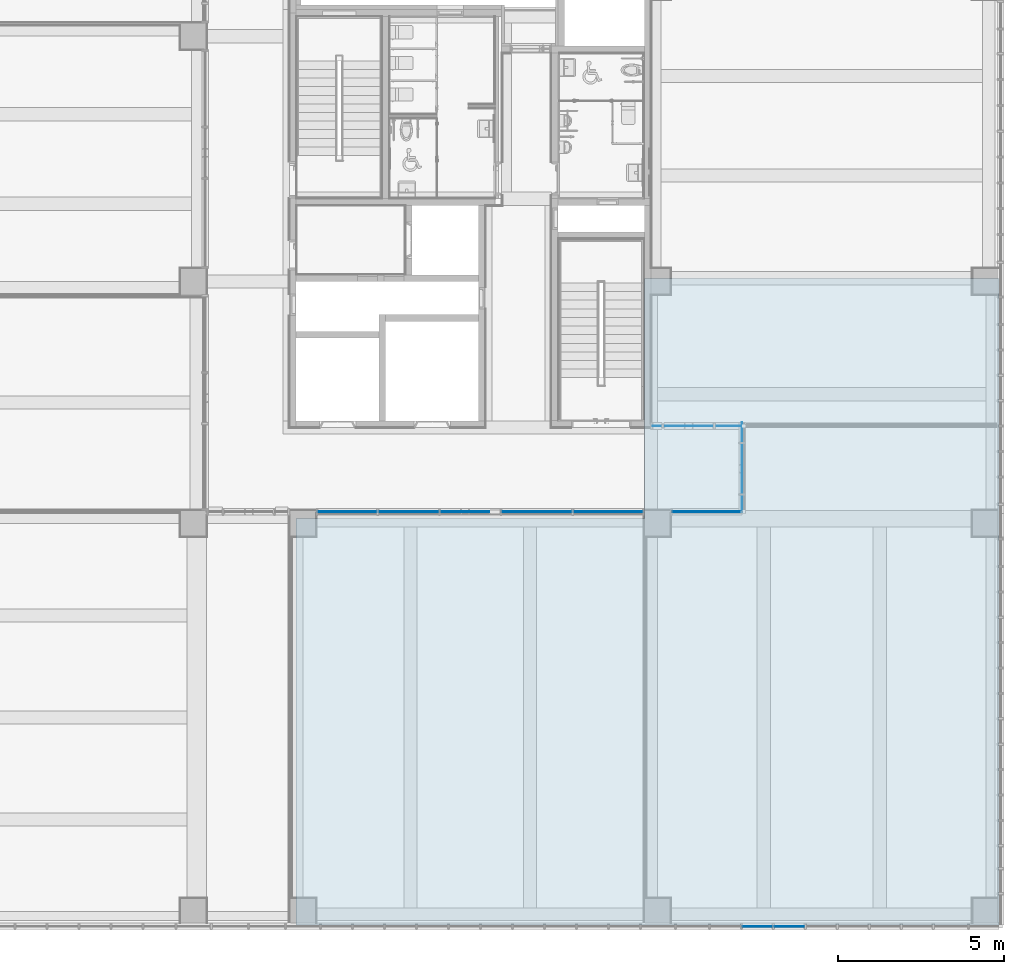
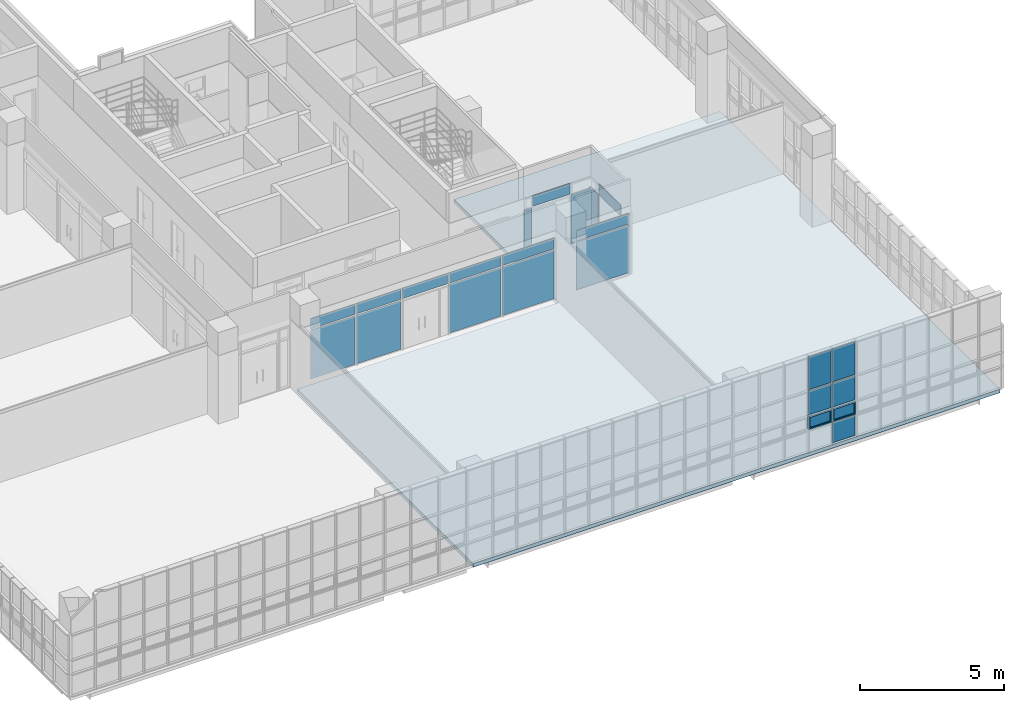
# One storey, part 32 of 76: 24 plates, 1 slab, 5 elements without a shape of their own.
"""IFC2X3 building model written with IfcOpenShell, lengths in millimetres."""

from ifc_helpers import new_model, entity, si_unit, converted_unit, derived_unit, direction, frame, origin, origin_2d_with_axis, place, context, subcontext, project, spatial, polyline, rectangle, outline, extrude, source, transform, mapped, material, material_list, layer, layer_set, layer_usage, type_object, type_shapes, element, aggregate, save


model = new_model("IFC2X3")

# Units and contexts
model_context = context("Model", 3, precision=0.01, world=origin(), true_north=direction((6.123031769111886e-17, 1.0)))
body_context = subcontext(model_context, "Body", "Model", "MODEL_VIEW")
ifc_project = project(units=[si_unit("LENGTHUNIT", "METRE", prefix="MILLI"), si_unit("AREAUNIT", "SQUARE_METRE"), si_unit("VOLUMEUNIT", "CUBIC_METRE"), converted_unit("PLANEANGLEUNIT", "DEGREE", entity("IfcRatioMeasure", 0.017453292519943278), si_unit("PLANEANGLEUNIT", "RADIAN"), dimensions=[0, 0, 0, 0, 0, 0, 0]), si_unit("MASSUNIT", "GRAM", prefix="KILO"), derived_unit("MASSDENSITYUNIT", [(si_unit("MASSUNIT", "GRAM", prefix="KILO"), 1), (si_unit("LENGTHUNIT", "METRE"), -3)]), derived_unit("MOMENTOFINERTIAUNIT", [(si_unit("LENGTHUNIT", "METRE"), 4)]), si_unit("TIMEUNIT", "SECOND"), si_unit("FREQUENCYUNIT", "HERTZ"), si_unit("THERMODYNAMICTEMPERATUREUNIT", "DEGREE_CELSIUS"), derived_unit("THERMALTRANSMITTANCEUNIT", [(si_unit("MASSUNIT", "GRAM", prefix="KILO"), 1), (si_unit("THERMODYNAMICTEMPERATUREUNIT", "KELVIN"), -1), (si_unit("TIMEUNIT", "SECOND"), -3)]), derived_unit("VOLUMETRICFLOWRATEUNIT", [(si_unit("LENGTHUNIT", "METRE"), 3), (si_unit("TIMEUNIT", "SECOND"), -1)]), derived_unit("MASSFLOWRATEUNIT", [(si_unit("MASSUNIT", "GRAM", prefix="KILO"), 1), (si_unit("TIMEUNIT", "SECOND"), -1)]), derived_unit("ROTATIONALFREQUENCYUNIT", [(si_unit("TIMEUNIT", "SECOND"), -1)]), si_unit("ELECTRICCURRENTUNIT", "AMPERE"), si_unit("ELECTRICVOLTAGEUNIT", "VOLT"), si_unit("POWERUNIT", "WATT"), si_unit("FORCEUNIT", "NEWTON", prefix="KILO"), si_unit("ILLUMINANCEUNIT", "LUX"), si_unit("LUMINOUSFLUXUNIT", "LUMEN"), si_unit("LUMINOUSINTENSITYUNIT", "CANDELA"), derived_unit("USERDEFINED", [(si_unit("MASSUNIT", "GRAM", prefix="KILO"), -1), (si_unit("LENGTHUNIT", "METRE"), -2), (si_unit("TIMEUNIT", "SECOND"), 3), (si_unit("LUMINOUSFLUXUNIT", "LUMEN"), 1)]), derived_unit("SOUNDPOWERUNIT", [(si_unit("MASSUNIT", "GRAM", prefix="KILO"), 1), (si_unit("LENGTHUNIT", "METRE"), 2), (si_unit("TIMEUNIT", "SECOND"), -3)]), derived_unit("SOUNDPRESSUREUNIT", [(si_unit("MASSUNIT", "GRAM", prefix="KILO"), 1), (si_unit("LENGTHUNIT", "METRE"), -1), (si_unit("TIMEUNIT", "SECOND"), -2)]), derived_unit("LINEARVELOCITYUNIT", [(si_unit("LENGTHUNIT", "METRE"), 1), (si_unit("TIMEUNIT", "SECOND"), -1)]), si_unit("PRESSUREUNIT", "PASCAL"), derived_unit("USERDEFINED", [(si_unit("LENGTHUNIT", "METRE"), -2), (si_unit("MASSUNIT", "GRAM", prefix="KILO"), 1), (si_unit("TIMEUNIT", "SECOND"), -2)]), derived_unit("LINEARFORCEUNIT", [(si_unit("MASSUNIT", "GRAM", prefix="KILO"), 1), (si_unit("LENGTHUNIT", "METRE"), 1), (si_unit("TIMEUNIT", "SECOND"), -2), (si_unit("LENGTHUNIT", "METRE"), -1)]), derived_unit("PLANARFORCEUNIT", [(si_unit("MASSUNIT", "GRAM", prefix="KILO"), 1), (si_unit("LENGTHUNIT", "METRE"), 1), (si_unit("TIMEUNIT", "SECOND"), -2), (si_unit("LENGTHUNIT", "METRE"), -2)])], contexts=[model_context])

# Site, building, storey
site_placement = place(None, frame((-14167.972527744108, -657.2125860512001, 0.0)))
site = spatial("IfcSite", under=ifc_project, at=site_placement, Name="Default", CompositionType="ELEMENT")
building_placement = place(site_placement, origin())
building = spatial("IfcBuilding", under=site, at=building_placement, Name="Sample Building", CompositionType="ELEMENT")
storey_placement = place(building_placement, frame((0.0, 0.0, 9300.0)))
storey = spatial("IfcBuildingStorey", under=building, at=storey_placement, Name="지상 3층", CompositionType="ELEMENT", Elevation=9300.000000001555)

# Slab
ifc_material_1 = material(Name="KBIMS-콘크리트")
ifc_layer = layer(ifc_material_1, 150.0)
ifc_layer_set = layer_set([ifc_layer], Name="바닥:SL111-철근콘크리트구조 바닥 150mm_S2")
ifc_layer_usage = layer_usage(ifc_layer_set, "AXIS3", "POSITIVE", 0.0)
slab_type = type_object("IfcSlabType", Name="바닥:SL111-철근콘크리트구조 바닥 150mm_S2", PredefinedType="FLOOR", material=ifc_layer_set)
slab_placement = place(storey_placement, origin())
element("IfcSlab", 1, at=slab_placement, inside=storey, type_object=slab_type, material=ifc_layer_usage, Name="바닥:SL111-철근콘크리트구조 바닥 150mm_S2", ObjectType="바닥:SL111-철근콘크리트구조 바닥 150mm_S2", PredefinedType="FLOOR", context=body_context, shape_type="SweptSolid", body=[
    extrude(outline(polyline([(-10583.333387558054, -10566.663779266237), (1666.666712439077, -10566.663779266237), (1666.666712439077, -66.6550862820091), (8916.666675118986, -66.67247224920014), (8916.666675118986, 10633.336251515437), (-10583.333387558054, 10633.33625151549), (-10583.333387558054, -10566.663779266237)])), frame((40834.627577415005, 11140.545582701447, 0.0), z_axis=(0.0, 0.0, -1.0), x_axis=(0.0, 1.0, 0.0)), (0.0, 0.0, 1.0), 150.00000000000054),
])

# Curtain wall, plate
curtain_wall_type = type_object("IfcCurtainWallType", Name="커튼월:CW112-스테인리스 스틸 커튼월", PredefinedType="NOTDEFINED")
curtain_wall_1_placement = place(storey_placement, frame((0.0, 0.0, -9300.0)))
curtain_wall_1 = element("IfcCurtainWall", 2, at=curtain_wall_1_placement, inside=storey, type_object=curtain_wall_type, Name="커튼월:CW112-스테인리스 스틸 커튼월", ObjectType="커튼월:CW112-스테인리스 스틸 커튼월")
ifc_material_2 = material(Name="KBIMS-로이유리(코팅)")
plate_type_1 = type_object("IfcPlateType", Name="CW300-THK24.Low-e coating glass:CW300-THK24.Low-e coating glass", PredefinedType="CURTAIN_PANEL", material=ifc_material_2)
shared_shape_1 = source(origin(), body_context, "Body", "SweptSolid", [
    extrude(rectangle(XDim=1500.0000000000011, YDim=24.000000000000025, at=origin_2d_with_axis()), frame((0.0, 0.0, 0.0), z_axis=(0.0, 0.0, 1.0), x_axis=(-1.0, 0.0, 0.0)), (0.0, 0.0, 1.0), 445.00000000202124),
])
type_shapes(plate_type_1, [shared_shape_1])
plate_1_placement = place(curtain_wall_1_placement, frame((43717.972491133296, 14312.177678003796, 11505.0), z_axis=(0.0, 0.0, 1.0), x_axis=(0.0, 1.0, 0.0)))
plate_1 = element("IfcPlate", 3, at=plate_1_placement, type_object=plate_type_1, material=ifc_material_2, Name="CW300-THK24.Low-e coating glass:CW300-THK24.Low-e coating glass", ObjectType="CW300-THK24.Low-e coating glass:CW300-THK24.Low-e coating glass", context=body_context, shape_type="MappedRepresentation", body=[
    mapped(shared_shape_1, transform((0.0, 0.0, 0.0), scale=1.0)),
])

# Curtain wall, plates
curtain_wall_2_placement = place(storey_placement, frame((0.0, 0.0, -9300.0)))
curtain_wall_2 = element("IfcCurtainWall", 4, at=curtain_wall_2_placement, inside=storey, type_object=curtain_wall_type, Name="커튼월:CW112-스테인리스 스틸 커튼월", ObjectType="커튼월:CW112-스테인리스 스틸 커튼월")
plate_type_2 = type_object("IfcPlateType", Name="CW300-THK24.Low-e coating glass:CW300-THK24.Low-e coating glass", PredefinedType="CURTAIN_PANEL", material=ifc_material_2)
shared_shape_2 = source(origin(), body_context, "Body", "SweptSolid", [
    extrude(rectangle(XDim=1785.0173767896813, YDim=24.000000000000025, at=origin_2d_with_axis()), frame((0.0, 0.0, 0.0), z_axis=(0.0, 0.0, 1.0), x_axis=(-1.0, 0.0, 0.0)), (0.0, 0.0, 1.0), 2074.9999999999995),
])
type_shapes(plate_type_2, [shared_shape_2])
plate_2_placement = place(curtain_wall_2_placement, frame((31810.463802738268, 13012.194878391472, 9380.0)))
plate_2 = element("IfcPlate", 5, at=plate_2_placement, type_object=plate_type_2, material=ifc_material_2, Name="CW300-THK24.Low-e coating glass:CW300-THK24.Low-e coating glass", ObjectType="CW300-THK24.Low-e coating glass:CW300-THK24.Low-e coating glass", context=body_context, shape_type="MappedRepresentation", body=[
    mapped(shared_shape_2, transform((0.0, 0.0, 0.0), scale=1.0)),
])
plate_type_3 = type_object("IfcPlateType", Name="CW300-THK24.Low-e coating glass:CW300-THK24.Low-e coating glass", PredefinedType="CURTAIN_PANEL", material=ifc_material_2)
shared_shape_3 = source(origin(), body_context, "Body", "SweptSolid", [
    extrude(rectangle(XDim=1810.0000000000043, YDim=24.000000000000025, at=origin_2d_with_axis()), frame((0.0, 0.0, 0.0), z_axis=(0.0, 0.0, 1.0), x_axis=(-1.0, 0.0, 0.0)), (0.0, 0.0, 1.0), 2074.9999999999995),
])
type_shapes(plate_type_3, [shared_shape_3])
plate_3_placement = place(curtain_wall_2_placement, frame((33657.972491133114, 13012.194878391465, 9380.0)))
plate_3 = element("IfcPlate", 6, at=plate_3_placement, type_object=plate_type_3, material=ifc_material_2, Name="CW300-THK24.Low-e coating glass:CW300-THK24.Low-e coating glass", ObjectType="CW300-THK24.Low-e coating glass:CW300-THK24.Low-e coating glass", context=body_context, shape_type="MappedRepresentation", body=[
    mapped(shared_shape_3, transform((0.0, 0.0, 0.0), scale=1.0)),
])
plate_type_4 = type_object("IfcPlateType", Name="CW300-THK24.Low-e coating glass:CW300-THK24.Low-e coating glass", PredefinedType="CURTAIN_PANEL", material=ifc_material_2)
shared_shape_4 = source(origin(), body_context, "Body", "SweptSolid", [
    extrude(rectangle(XDim=2110.0000000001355, YDim=24.000000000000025, at=origin_2d_with_axis()), frame((0.0, 0.0, 0.0), z_axis=(0.0, 0.0, 1.0), x_axis=(-1.0, 0.0, 0.0)), (0.0, 0.0, 1.0), 2074.9999999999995),
])
type_shapes(plate_type_4, [shared_shape_4])
plate_4_placement = place(curtain_wall_2_placement, frame((37527.97249113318, 13012.194878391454, 9380.0)))
plate_4 = element("IfcPlate", 7, at=plate_4_placement, type_object=plate_type_4, material=ifc_material_2, Name="CW300-THK24.Low-e coating glass:CW300-THK24.Low-e coating glass", ObjectType="CW300-THK24.Low-e coating glass:CW300-THK24.Low-e coating glass", context=body_context, shape_type="MappedRepresentation", body=[
    mapped(shared_shape_4, transform((0.0, 0.0, 0.0), scale=1.0)),
])
plate_type_5 = type_object("IfcPlateType", Name="CW300-THK24.Low-e coating glass:CW300-THK24.Low-e coating glass", PredefinedType="CURTAIN_PANEL", material=ifc_material_2)
shared_shape_5 = source(origin(), body_context, "Body", "SweptSolid", [
    extrude(rectangle(XDim=2084.9999999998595, YDim=24.000000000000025, at=origin_2d_with_axis()), frame((0.0, 0.0, 0.0), z_axis=(0.0, 0.0, 1.0), x_axis=(-1.0, 0.0, 0.0)), (0.0, 0.0, 1.0), 2074.9999999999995),
])
type_shapes(plate_type_5, [shared_shape_5])
plate_5_placement = place(curtain_wall_2_placement, frame((39675.47249113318, 13012.194878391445, 9380.0)))
plate_5 = element("IfcPlate", 8, at=plate_5_placement, type_object=plate_type_5, material=ifc_material_2, Name="CW300-THK24.Low-e coating glass:CW300-THK24.Low-e coating glass", ObjectType="CW300-THK24.Low-e coating glass:CW300-THK24.Low-e coating glass", context=body_context, shape_type="MappedRepresentation", body=[
    mapped(shared_shape_5, transform((0.0, 0.0, 0.0), scale=1.0)),
])
plate_type_6 = type_object("IfcPlateType", Name="CW300-THK24.Low-e coating glass:CW300-THK24.Low-e coating glass", PredefinedType="CURTAIN_PANEL", material=ifc_material_2)
shared_shape_6 = source(origin(), body_context, "Body", "SweptSolid", [
    extrude(rectangle(XDim=1785.0173767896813, YDim=24.000000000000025, at=origin_2d_with_axis()), frame((0.0, 0.0, 0.0), z_axis=(0.0, 0.0, 1.0), x_axis=(-1.0, 0.0, 0.0)), (0.0, 0.0, 1.0), 445.00000000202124),
])
type_shapes(plate_type_6, [shared_shape_6])
plate_6_placement = place(curtain_wall_2_placement, frame((31810.463802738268, 13012.194878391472, 11505.0)))
plate_6 = element("IfcPlate", 9, at=plate_6_placement, type_object=plate_type_6, material=ifc_material_2, Name="CW300-THK24.Low-e coating glass:CW300-THK24.Low-e coating glass", ObjectType="CW300-THK24.Low-e coating glass:CW300-THK24.Low-e coating glass", context=body_context, shape_type="MappedRepresentation", body=[
    mapped(shared_shape_6, transform((0.0, 0.0, 0.0), scale=1.0)),
])
plate_type_7 = type_object("IfcPlateType", Name="CW300-THK24.Low-e coating glass:CW300-THK24.Low-e coating glass", PredefinedType="CURTAIN_PANEL", material=ifc_material_2)
shared_shape_7 = source(origin(), body_context, "Body", "SweptSolid", [
    extrude(rectangle(XDim=1810.0, YDim=24.000000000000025, at=origin_2d_with_axis()), frame((0.0, 0.0, 0.0), z_axis=(0.0, 0.0, 1.0), x_axis=(-1.0, 0.0, 0.0)), (0.0, 0.0, 1.0), 445.00000000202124),
])
type_shapes(plate_type_7, [shared_shape_7])
plate_7_placement = place(curtain_wall_2_placement, frame((33657.972491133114, 13012.194878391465, 11505.0)))
plate_7 = element("IfcPlate", 10, at=plate_7_placement, type_object=plate_type_7, material=ifc_material_2, Name="CW300-THK24.Low-e coating glass:CW300-THK24.Low-e coating glass", ObjectType="CW300-THK24.Low-e coating glass:CW300-THK24.Low-e coating glass", context=body_context, shape_type="MappedRepresentation", body=[
    mapped(shared_shape_7, transform((0.0, 0.0, 0.0), scale=1.0)),
])
plate_8_placement = place(curtain_wall_2_placement, frame((35517.972491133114, 13012.19487839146, 11505.0)))
plate_8 = element("IfcPlate", 11, at=plate_8_placement, type_object=plate_type_7, material=ifc_material_2, Name="CW300-THK24.Low-e coating glass:CW300-THK24.Low-e coating glass", ObjectType="CW300-THK24.Low-e coating glass:CW300-THK24.Low-e coating glass", context=body_context, shape_type="MappedRepresentation", body=[
    mapped(shared_shape_7, transform((0.0, 0.0, 0.0), scale=1.0)),
])
plate_type_8 = type_object("IfcPlateType", Name="CW300-THK24.Low-e coating glass:CW300-THK24.Low-e coating glass", PredefinedType="CURTAIN_PANEL", material=ifc_material_2)
shared_shape_8 = source(origin(), body_context, "Body", "SweptSolid", [
    extrude(rectangle(XDim=2110.0000000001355, YDim=24.000000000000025, at=origin_2d_with_axis()), frame((0.0, 0.0, 0.0), z_axis=(0.0, 0.0, 1.0), x_axis=(-1.0, 0.0, 0.0)), (0.0, 0.0, 1.0), 445.00000000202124),
])
type_shapes(plate_type_8, [shared_shape_8])
plate_9_placement = place(curtain_wall_2_placement, frame((37527.97249113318, 13012.194878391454, 11505.0)))
plate_9 = element("IfcPlate", 12, at=plate_9_placement, type_object=plate_type_8, material=ifc_material_2, Name="CW300-THK24.Low-e coating glass:CW300-THK24.Low-e coating glass", ObjectType="CW300-THK24.Low-e coating glass:CW300-THK24.Low-e coating glass", context=body_context, shape_type="MappedRepresentation", body=[
    mapped(shared_shape_8, transform((0.0, 0.0, 0.0), scale=1.0)),
])
plate_type_9 = type_object("IfcPlateType", Name="CW300-THK24.Low-e coating glass:CW300-THK24.Low-e coating glass", PredefinedType="CURTAIN_PANEL", material=ifc_material_2)
shared_shape_9 = source(origin(), body_context, "Body", "SweptSolid", [
    extrude(rectangle(XDim=2084.9999999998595, YDim=24.000000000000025, at=origin_2d_with_axis()), frame((0.0, 0.0, 0.0), z_axis=(0.0, 0.0, 1.0), x_axis=(-1.0, 0.0, 0.0)), (0.0, 0.0, 1.0), 445.00000000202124),
])
type_shapes(plate_type_9, [shared_shape_9])
plate_10_placement = place(curtain_wall_2_placement, frame((39675.47249113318, 13012.194878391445, 11505.0)))
plate_10 = element("IfcPlate", 13, at=plate_10_placement, type_object=plate_type_9, material=ifc_material_2, Name="CW300-THK24.Low-e coating glass:CW300-THK24.Low-e coating glass", ObjectType="CW300-THK24.Low-e coating glass:CW300-THK24.Low-e coating glass", context=body_context, shape_type="MappedRepresentation", body=[
    mapped(shared_shape_9, transform((0.0, 0.0, 0.0), scale=1.0)),
])
aggregate(curtain_wall_2, [plate_2, plate_3, plate_4, plate_5, plate_6, plate_7, plate_8, plate_9, plate_10])

# Curtain wall, plate
curtain_wall_3_placement = place(storey_placement, frame((0.0, 0.0, -9300.0)))
curtain_wall_3 = element("IfcCurtainWall", 14, at=curtain_wall_3_placement, inside=storey, type_object=curtain_wall_type, Name="커튼월:CW112-스테인리스 스틸 커튼월", ObjectType="커튼월:CW112-스테인리스 스틸 커튼월")
plate_type_10 = type_object("IfcPlateType", Name="CW300-THK24.Low-e coating glass:CW300-THK24.Low-e coating glass", PredefinedType="CURTAIN_PANEL", material=ifc_material_2)
shared_shape_10 = source(origin(), body_context, "Body", "SweptSolid", [
    extrude(rectangle(XDim=24.000000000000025, YDim=280.0086929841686, at=origin_2d_with_axis()), frame((0.0, 0.0, 0.0), z_axis=(0.0, 0.0, 1.0), x_axis=(0.0, 1.0, 0.0)), (0.0, 0.0, 1.0), 2075.0000000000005),
])
type_shapes(plate_type_10, [shared_shape_10])
plate_11_placement = place(curtain_wall_3_placement, frame((41157.968144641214, 15602.177678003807, 9380.0), z_axis=(0.0, 0.0, 1.0), x_axis=(-1.0, 0.0, 0.0)))
plate_11 = element("IfcPlate", 15, at=plate_11_placement, type_object=plate_type_10, material=ifc_material_2, Name="CW300-THK24.Low-e coating glass:CW300-THK24.Low-e coating glass", ObjectType="CW300-THK24.Low-e coating glass:CW300-THK24.Low-e coating glass", context=body_context, shape_type="MappedRepresentation", body=[
    mapped(shared_shape_10, transform((0.0, 0.0, 0.0), scale=1.0)),
])

# Curtain wall, plates
curtain_wall_4_placement = place(storey_placement, frame((0.0, 0.0, -9300.0)))
curtain_wall_4 = element("IfcCurtainWall", 16, at=curtain_wall_4_placement, inside=storey, type_object=curtain_wall_type, Name="커튼월:CW112-스테인리스 스틸 커튼월", ObjectType="커튼월:CW112-스테인리스 스틸 커튼월")
plate_type_11 = type_object("IfcPlateType", Name="CW300-THK24.Low-e coating glass:CW300-THK24.Low-e coating glass", PredefinedType="CURTAIN_PANEL", material=ifc_material_2)
shared_shape_11 = source(origin(), body_context, "Body", "SweptSolid", [
    extrude(rectangle(XDim=914.9999999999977, YDim=24.000000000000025, at=origin_2d_with_axis()), frame((0.0, 0.0, 0.0), z_axis=(0.0, 0.0, 1.0), x_axis=(-1.0, 0.0, 0.0)), (0.0, 0.0, 1.0), 875.0000000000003),
])
type_shapes(plate_type_11, [shared_shape_11])
plate_12_placement = place(curtain_wall_4_placement, frame((45142.65607007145, 507.21229514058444, 9430.0)))
plate_12 = element("IfcPlate", 17, at=plate_12_placement, type_object=plate_type_11, material=ifc_material_2, Name="CW300-THK24.Low-e coating glass:CW300-THK24.Low-e coating glass", ObjectType="CW300-THK24.Low-e coating glass:CW300-THK24.Low-e coating glass", context=body_context, shape_type="MappedRepresentation", body=[
    mapped(shared_shape_11, transform((0.0, 0.0, 0.0), scale=1.0)),
])
ifc_material_3 = material(Name="KBIMS-유리")
ifc_material_4 = material(Name="KBIMS-알루미늄")
ifc_material_list_1 = material_list([ifc_material_3, ifc_material_4])
ifc_material_list_2 = material_list([ifc_material_3, ifc_material_4])
plate_type_12 = type_object("IfcPlateType", Name="CW410-프로젝트 창:CW410-프로젝트 창 (하부개폐)", PredefinedType="CURTAIN_PANEL", material=ifc_material_list_2)
shared_shape_12 = source(origin(), body_context, "Body", "SweptSolid", [
    extrude(rectangle(XDim=815.0000000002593, YDim=23.999999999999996, at=origin_2d_with_axis()), frame((0.0, -0.04999999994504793, 50.0), z_axis=(0.0, 0.0, 1.0), x_axis=(-1.0, 0.0, 0.0)), (0.0, 0.0, 1.0), 450.0000000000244),
    extrude(outline(polyline([(-457.4999999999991, -275.0), (457.4999999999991, -275.0), (457.4999999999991, 275.0), (-457.4999999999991, 275.0), (-457.4999999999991, -275.0)]), holes=[polyline([(-407.50000000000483, -225.0), (-407.5000000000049, 225.0), (407.50000000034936, 225.0), (407.50000000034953, -225.0), (-407.50000000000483, -225.0)])]), frame((0.0, -50.04999999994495, 275.0), z_axis=(0.0, 1.0, 0.0), x_axis=(1.0, 0.0, 0.0)), (0.0, 0.0, 1.0), 99.99999999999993),
])
type_shapes(plate_type_12, [shared_shape_12])
plate_13_placement = place(curtain_wall_4_placement, frame((44177.656070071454, 507.2122951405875, 10355.0)))
plate_13 = element("IfcPlate", 18, at=plate_13_placement, type_object=plate_type_12, material=ifc_material_list_1, Name="CW410-프로젝트 창:CW410-프로젝트 창 (하부개폐)", ObjectType="CW410-프로젝트 창:CW410-프로젝트 창 (하부개폐)", context=body_context, shape_type="MappedRepresentation", body=[
    mapped(shared_shape_12, transform((0.0, 0.0, 0.0), scale=1.0)),
])
ifc_material_list_3 = material_list([ifc_material_3, ifc_material_4])
plate_14_placement = place(curtain_wall_4_placement, frame((45142.65607007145, 507.21229514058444, 10355.0)))
plate_14 = element("IfcPlate", 19, at=plate_14_placement, type_object=plate_type_12, material=ifc_material_list_3, Name="CW410-프로젝트 창:CW410-프로젝트 창 (하부개폐)", ObjectType="CW410-프로젝트 창:CW410-프로젝트 창 (하부개폐)", context=body_context, shape_type="MappedRepresentation", body=[
    mapped(shared_shape_12, transform((0.0, 0.0, 0.0), scale=1.0)),
])
plate_type_13 = type_object("IfcPlateType", Name="CW300-THK24.Low-e coating glass:CW300-THK24.Low-e coating glass", PredefinedType="CURTAIN_PANEL", material=ifc_material_2)
shared_shape_13 = source(origin(), body_context, "Body", "SweptSolid", [
    extrude(rectangle(XDim=914.9999999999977, YDim=24.000000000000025, at=origin_2d_with_axis()), frame((0.0, 0.0, 0.0), z_axis=(0.0, 0.0, 1.0), x_axis=(-1.0, 0.0, 0.0)), (0.0, 0.0, 1.0), 1020.0000000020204),
])
type_shapes(plate_type_13, [shared_shape_13])
plate_15_placement = place(curtain_wall_4_placement, frame((44177.656070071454, 507.2122951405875, 10955.0)))
plate_15 = element("IfcPlate", 20, at=plate_15_placement, type_object=plate_type_13, material=ifc_material_2, Name="CW300-THK24.Low-e coating glass:CW300-THK24.Low-e coating glass", ObjectType="CW300-THK24.Low-e coating glass:CW300-THK24.Low-e coating glass", context=body_context, shape_type="MappedRepresentation", body=[
    mapped(shared_shape_13, transform((0.0, 0.0, 0.0), scale=1.0)),
])
plate_16_placement = place(curtain_wall_4_placement, frame((45142.65607007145, 507.21229514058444, 10955.0)))
plate_16 = element("IfcPlate", 21, at=plate_16_placement, type_object=plate_type_13, material=ifc_material_2, Name="CW300-THK24.Low-e coating glass:CW300-THK24.Low-e coating glass", ObjectType="CW300-THK24.Low-e coating glass:CW300-THK24.Low-e coating glass", context=body_context, shape_type="MappedRepresentation", body=[
    mapped(shared_shape_13, transform((0.0, 0.0, 0.0), scale=1.0)),
])
plate_type_14 = type_object("IfcPlateType", Name="CW300-THK24.Low-e coating glass:CW300-THK24.Low-e coating glass", PredefinedType="CURTAIN_PANEL", material=ifc_material_2)
shared_shape_14 = source(origin(), body_context, "Body", "SweptSolid", [
    extrude(rectangle(XDim=914.9999999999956, YDim=24.000000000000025, at=origin_2d_with_axis()), frame((0.0, 0.0, 0.0), z_axis=(0.0, 0.0, 1.0), x_axis=(-1.0, 0.0, 0.0)), (0.0, 0.0, 1.0), 1404.9999999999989),
])
type_shapes(plate_type_14, [shared_shape_14])
plate_17_placement = place(curtain_wall_4_placement, frame((44177.65607007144, 507.2122951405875, 12025.0)))
plate_17 = element("IfcPlate", 22, at=plate_17_placement, type_object=plate_type_14, material=ifc_material_2, Name="CW300-THK24.Low-e coating glass:CW300-THK24.Low-e coating glass", ObjectType="CW300-THK24.Low-e coating glass:CW300-THK24.Low-e coating glass", context=body_context, shape_type="MappedRepresentation", body=[
    mapped(shared_shape_14, transform((0.0, 0.0, 0.0), scale=1.0)),
])
plate_18_placement = place(curtain_wall_4_placement, frame((45142.65607007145, 507.21229514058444, 12025.0)))
plate_18 = element("IfcPlate", 23, at=plate_18_placement, type_object=plate_type_14, material=ifc_material_2, Name="CW300-THK24.Low-e coating glass:CW300-THK24.Low-e coating glass", ObjectType="CW300-THK24.Low-e coating glass:CW300-THK24.Low-e coating glass", context=body_context, shape_type="MappedRepresentation", body=[
    mapped(shared_shape_14, transform((0.0, 0.0, 0.0), scale=1.0)),
])
aggregate(curtain_wall_4, [plate_12, plate_13, plate_14, plate_15, plate_16, plate_17, plate_18])

# Plate
plate_type_15 = type_object("IfcPlateType", Name="CW300-THK24.Low-e coating glass:CW300-THK24.Low-e coating glass", PredefinedType="CURTAIN_PANEL", material=ifc_material_2)
shared_shape_15 = source(origin(), body_context, "Body", "SweptSolid", [
    extrude(rectangle(XDim=24.000000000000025, YDim=1494.999999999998, at=origin_2d_with_axis()), frame((0.0, 0.0, 0.0), z_axis=(0.0, 0.0, 1.0), x_axis=(0.0, 1.0, 0.0)), (0.0, 0.0, 1.0), 444.9999999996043),
])
type_shapes(plate_type_15, [shared_shape_15])
plate_19_placement = place(curtain_wall_3_placement, frame((42105.47249113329, 15602.177678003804, 11505.0), z_axis=(0.0, 0.0, 1.0), x_axis=(-1.0, 0.0, 0.0)))
plate_19 = element("IfcPlate", 24, at=plate_19_placement, type_object=plate_type_15, material=ifc_material_2, Name="CW300-THK24.Low-e coating glass:CW300-THK24.Low-e coating glass", ObjectType="CW300-THK24.Low-e coating glass:CW300-THK24.Low-e coating glass", context=body_context, shape_type="MappedRepresentation", body=[
    mapped(shared_shape_15, transform((0.0, 0.0, 0.0), scale=1.0)),
])

# Curtain wall, plates
curtain_wall_5_placement = place(storey_placement, frame((0.0, 0.0, -9300.0)))
curtain_wall_5 = element("IfcCurtainWall", 25, at=curtain_wall_5_placement, inside=storey, type_object=curtain_wall_type, Name="커튼월:CW112-스테인리스 스틸 커튼월", ObjectType="커튼월:CW112-스테인리스 스틸 커튼월")
plate_type_16 = type_object("IfcPlateType", Name="CW300-THK24.Low-e coating glass:CW300-THK24.Low-e coating glass", PredefinedType="CURTAIN_PANEL", material=ifc_material_2)
shared_shape_16 = source(origin(), body_context, "Body", "SweptSolid", [
    extrude(rectangle(XDim=2099.999999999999, YDim=24.000000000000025, at=origin_2d_with_axis()), frame((0.0, 0.0, 0.0), z_axis=(0.0, 0.0, 1.0), x_axis=(-1.0, 0.0, 0.0)), (0.0, 0.0, 1.0), 2025.000000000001),
])
type_shapes(plate_type_16, [shared_shape_16])
plate_20_placement = place(curtain_wall_5_placement, frame((42667.957735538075, 13012.212383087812, 9430.0)))
plate_20 = element("IfcPlate", 26, at=plate_20_placement, type_object=plate_type_16, material=ifc_material_2, Name="CW300-THK24.Low-e coating glass:CW300-THK24.Low-e coating glass", ObjectType="CW300-THK24.Low-e coating glass:CW300-THK24.Low-e coating glass", context=body_context, shape_type="MappedRepresentation", body=[
    mapped(shared_shape_16, transform((0.0, 0.0, 0.0), scale=1.0)),
])
plate_type_17 = type_object("IfcPlateType", Name="CW300-THK24.Low-e coating glass:CW300-THK24.Low-e coating glass", PredefinedType="CURTAIN_PANEL", material=ifc_material_2)
shared_shape_17 = source(origin(), body_context, "Body", "SweptSolid", [
    extrude(rectangle(XDim=2099.999999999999, YDim=24.000000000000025, at=origin_2d_with_axis()), frame((0.0, 0.0, 0.0), z_axis=(0.0, 0.0, 1.0), x_axis=(-1.0, 0.0, 0.0)), (0.0, 0.0, 1.0), 445.0000000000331),
])
type_shapes(plate_type_17, [shared_shape_17])
plate_21_placement = place(curtain_wall_5_placement, frame((42667.957735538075, 13012.212383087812, 11505.0)))
plate_21 = element("IfcPlate", 27, at=plate_21_placement, type_object=plate_type_17, material=ifc_material_2, Name="CW300-THK24.Low-e coating glass:CW300-THK24.Low-e coating glass", ObjectType="CW300-THK24.Low-e coating glass:CW300-THK24.Low-e coating glass", context=body_context, shape_type="MappedRepresentation", body=[
    mapped(shared_shape_17, transform((0.0, 0.0, 0.0), scale=1.0)),
])
aggregate(curtain_wall_5, [plate_20, plate_21])

# Plate
plate_type_18 = type_object("IfcPlateType", Name="CW300-THK24.Low-e coating glass:CW300-THK24.Low-e coating glass", PredefinedType="CURTAIN_PANEL", material=ifc_material_2)
shared_shape_18 = source(origin(), body_context, "Body", "SweptSolid", [
    extrude(rectangle(XDim=454.96509195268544, YDim=24.000000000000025, at=origin_2d_with_axis()), frame((0.0, 0.0, 0.0), z_axis=(0.0, 0.0, 1.0), x_axis=(-1.0, 0.0, 0.0)), (0.0, 0.0, 1.0), 2024.9999999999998),
])
type_shapes(plate_type_18, [shared_shape_18])
plate_22_placement = place(curtain_wall_1_placement, frame((43717.972491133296, 13284.695132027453, 9430.0), z_axis=(0.0, 0.0, 1.0), x_axis=(0.0, 1.0, 0.0)))
plate_22 = element("IfcPlate", 28, at=plate_22_placement, type_object=plate_type_18, material=ifc_material_2, Name="CW300-THK24.Low-e coating glass:CW300-THK24.Low-e coating glass", ObjectType="CW300-THK24.Low-e coating glass:CW300-THK24.Low-e coating glass", context=body_context, shape_type="MappedRepresentation", body=[
    mapped(shared_shape_18, transform((0.0, 0.0, 0.0), scale=1.0)),
])

plate_type_19 = type_object("IfcPlateType", Name="CW300-THK24.Low-e coating glass:CW300-THK24.Low-e coating glass", PredefinedType="CURTAIN_PANEL", material=ifc_material_2)
shared_shape_19 = source(origin(), body_context, "Body", "SweptSolid", [
    extrude(rectangle(XDim=595.0349080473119, YDim=24.000000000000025, at=origin_2d_with_axis()), frame((0.0, 0.0, 0.0), z_axis=(0.0, 0.0, 1.0), x_axis=(-1.0, 0.0, 0.0)), (0.0, 0.0, 1.0), 2025.000000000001),
])
type_shapes(plate_type_19, [shared_shape_19])
plate_23_placement = place(curtain_wall_1_placement, frame((43717.972491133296, 15409.695132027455, 9430.0), z_axis=(0.0, 0.0, 1.0), x_axis=(0.0, 1.0, 0.0)))
plate_23 = element("IfcPlate", 29, at=plate_23_placement, type_object=plate_type_19, material=ifc_material_2, Name="CW300-THK24.Low-e coating glass:CW300-THK24.Low-e coating glass", ObjectType="CW300-THK24.Low-e coating glass:CW300-THK24.Low-e coating glass", context=body_context, shape_type="MappedRepresentation", body=[
    mapped(shared_shape_19, transform((0.0, 0.0, 0.0), scale=1.0)),
])

aggregate(curtain_wall_1, [plate_22, plate_23, plate_1])

plate_type_20 = type_object("IfcPlateType", Name="CW300-THK24.Low-e coating glass:CW300-THK24.Low-e coating glass", PredefinedType="CURTAIN_PANEL", material=ifc_material_2)
shared_shape_20 = source(origin(), body_context, "Body", "SweptSolid", [
    extrude(rectangle(XDim=24.000000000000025, YDim=814.9913070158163, at=origin_2d_with_axis()), frame((0.0, 0.0, 0.0), z_axis=(0.0, 0.0, 1.0), x_axis=(0.0, 1.0, 0.0)), (0.0, 0.0, 1.0), 2074.9999999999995),
])
type_shapes(plate_type_20, [shared_shape_20])
plate_24_placement = place(curtain_wall_3_placement, frame((43310.46814464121, 15602.1776780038, 9380.0), z_axis=(0.0, 0.0, 1.0), x_axis=(-1.0, 0.0, 0.0)))
plate_24 = element("IfcPlate", 30, at=plate_24_placement, type_object=plate_type_20, material=ifc_material_2, Name="CW300-THK24.Low-e coating glass:CW300-THK24.Low-e coating glass", ObjectType="CW300-THK24.Low-e coating glass:CW300-THK24.Low-e coating glass", context=body_context, shape_type="MappedRepresentation", body=[
    mapped(shared_shape_20, transform((0.0, 0.0, 0.0), scale=1.0)),
])

aggregate(curtain_wall_3, [plate_24, plate_11, plate_19])

save(model, "model.ifc")
